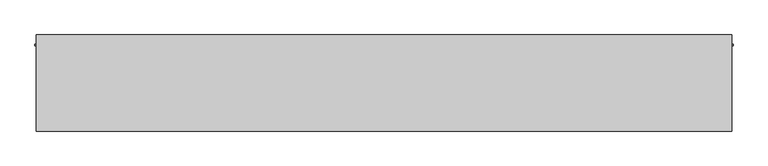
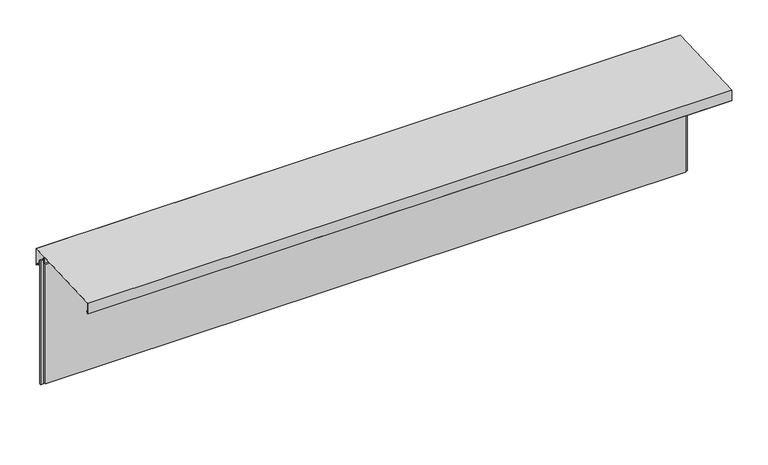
"""IFC4 building model written with IfcOpenShell, lengths in millimetres: plate geometry, Trimo_Qbiss Screen_Normal Panel-HORIZONTAL : HR - B."""

from ifc_helpers import new_model, si_unit, frame, origin, place, context, project, spatial, polyline, outline, extrude, source, transform, mapped, element, save


def plate_73010683(model_context):
    return source(origin(), model_context, "Body", "SweptSolid", [
        extrude(outline(polyline([(101.0, 868.0), (77.0, 868.0), (77.0, 868.8), (101.8, 868.8), (101.8, 831.8), (125.3313708, 831.8), (133.2, 823.9313708), (133.2, 822.8), (125.0, 831.0), (101.0, 831.0), (101.0, 868.0)])), frame((-2187.5, 0.0, 0.0), z_axis=(1.0, 0.0, 0.0), x_axis=(0.0, 1.0, 0.0)), (0.0, 0.0, 1.0), 4375.0),
        extrude(outline(polyline([(134.2, 818.9715729), (134.2, 934.1569759), (-469.2, 905.4165497), (-469.2, 833.1070922), (-457.6367532, 844.670339), (-457.0710678, 844.1046536), (-470.0, 831.1757214), (-470.0, 906.1757214), (135.0, 935.0), (135.0, 817.040202), (123.020101, 829.020101), (123.5857864, 829.5857864), (134.2, 818.9715729)])), frame((-2187.5, 0.0, 0.0), z_axis=(1.0, 0.0, 0.0), x_axis=(0.0, 1.0, 0.0)), (0.0, 0.0, 1.0), 4375.0),
        extrude(outline(polyline([(-2178.0, 76.5978162), (-2178.0, 67.8978162), (-2197.0, 67.8978162), (-2197.0, 76.5978162), (-2178.0, 76.5978162)])), frame((0.0, 0.0, -1.0), z_axis=(0.0, 0.0, 1.0), x_axis=(1.0, 0.0, 0.0)), (0.0, 0.0, 1.0), 890.0),
        extrude(outline(polyline([(2178.0, 67.8978162), (2178.0, 76.5978162), (2197.0, 76.5978162), (2197.0, 67.8978162), (2178.0, 67.8978162)])), frame((0.0, 0.0, -1.0), z_axis=(0.0, 0.0, 1.0), x_axis=(1.0, 0.0, 0.0)), (0.0, 0.0, 1.0), 890.0),
        extrude(outline(polyline([(2175.0, 76.0), (2175.0, 71.0), (-2175.0, 71.0), (-2175.0, 76.0), (2175.0, 76.0)])), frame((0.0, 0.0, 868.0), z_axis=(0.0, 0.0, 1.0), x_axis=(1.0, 0.0, 0.0)), (0.0, 0.0, 1.0), 21.0),
        extrude(outline(polyline([(71.0, 867.0), (100.0, 867.0), (100.0, 0.0), (72.0, 0.0), (72.0, 15.5), (62.0, 15.5), (62.0, 7.0), (50.0, 7.0), (50.0, 867.0), (63.0, 867.0), (63.0, 904.5), (71.0, 904.5), (71.0, 867.0)])), frame((-2175.0, 0.0, 0.0), z_axis=(1.0, 0.0, 0.0), x_axis=(0.0, 1.0, 0.0)), (0.0, 0.0, 1.0), 4350.0),
    ])


if __name__ == "__main__":
    model = new_model("IFC4")
    model_context = context("Model", 3, world=origin())
    ifc_project = project(units=[si_unit("LENGTHUNIT", "METRE", prefix="MILLI")], contexts=[model_context])
    site = spatial("IfcSite", under=ifc_project)
    building = spatial("IfcBuilding", under=site)
    placement = place(None, origin())
    plate_shape = plate_73010683(model_context)
    element("IfcPlate", 1, ObjectType="Trimo_Qbiss Screen_Normal Panel-HORIZONTAL : HR - B", at=placement, inside=building, context=model_context, shape_type="MappedRepresentation", body=[
        mapped(plate_shape, transform((0.0, 0.0, 0.0), x_axis=(1.0, 0.0, 0.0), y_axis=(0.0, 1.0, 0.0), z_axis=(0.0, 0.0, 1.0))),
    ])
    save(model, "model.ifc")
